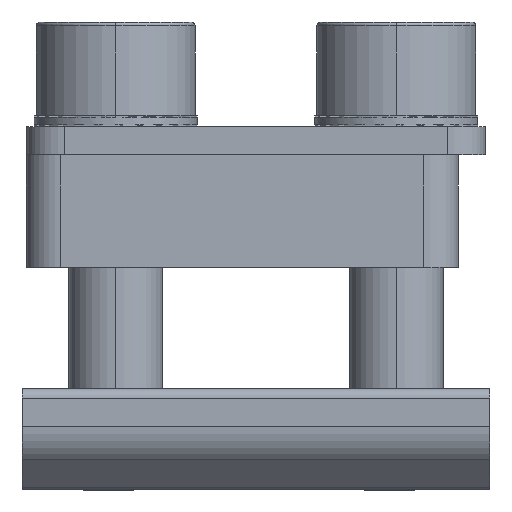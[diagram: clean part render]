
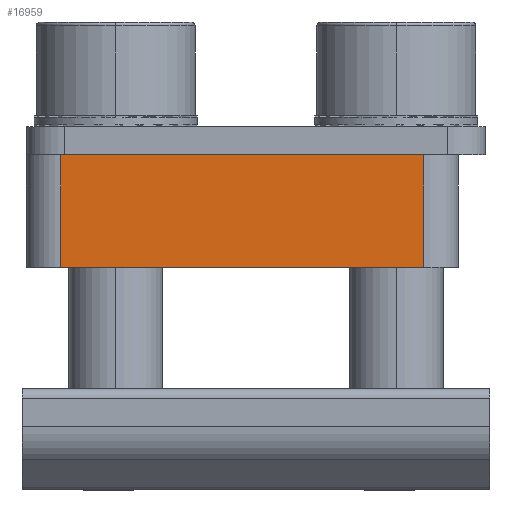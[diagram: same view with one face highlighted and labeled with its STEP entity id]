
A CAD part, front view. The second image highlights one B-rep face of the part: STEP entity #16959.
In plain terms, the highlighted planar face has unit normal (0, -1, 0).
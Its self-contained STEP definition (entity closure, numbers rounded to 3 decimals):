
#235 = ORIENTED_EDGE ( 'NONE', *, *, #23915, .F. ) ;
#1147 = DIRECTION ( 'NONE',  ( 0., 0., -1. ) ) ;
#1289 = ORIENTED_EDGE ( 'NONE', *, *, #2101, .T. ) ;
#1301 = ORIENTED_EDGE ( 'NONE', *, *, #20735, .T. ) ;
#1592 = VECTOR ( 'NONE', #4274, 1000. ) ;
#1802 = CARTESIAN_POINT ( 'NONE',  ( -94.16, -17.833, 26.764 ) ) ;
#2101 = EDGE_CURVE ( 'NONE', #5682, #9340, #10951, .T. ) ;
#3759 = FACE_OUTER_BOUND ( 'NONE', #22579, .T. ) ;
#4274 = DIRECTION ( 'NONE',  ( 0., 0., -1. ) ) ;
#5682 = VERTEX_POINT ( 'NONE', #7006 ) ;
#7006 = CARTESIAN_POINT ( 'NONE',  ( -74.776, -17.833, 26.764 ) ) ;
#7216 = DIRECTION ( 'NONE',  ( 0., 0., 1. ) ) ;
#7674 = EDGE_CURVE ( 'NONE', #9340, #21674, #16459, .T. ) ;
#8315 = AXIS2_PLACEMENT_3D ( 'NONE', #24287, #12755, #1147 ) ;
#8925 = CARTESIAN_POINT ( 'NONE',  ( -74.776, -17.833, 20.764 ) ) ;
#9062 = VECTOR ( 'NONE', #7216, 1000. ) ;
#9293 = CARTESIAN_POINT ( 'NONE',  ( -94.16, -17.833, 20.764 ) ) ;
#9340 = VERTEX_POINT ( 'NONE', #1802 ) ;
#9626 = LINE ( 'NONE', #20691, #9062 ) ;
#9640 = CARTESIAN_POINT ( 'NONE',  ( -84.468, -17.833, 26.764 ) ) ;
#10468 = VERTEX_POINT ( 'NONE', #8925 ) ;
#10951 = LINE ( 'NONE', #9640, #23918 ) ;
#11370 = ORIENTED_EDGE ( 'NONE', *, *, #7674, .T. ) ;
#12744 = DIRECTION ( 'NONE',  ( -1., 0., 0. ) ) ;
#12755 = DIRECTION ( 'NONE',  ( 0., -1., 0. ) ) ;
#14095 = CARTESIAN_POINT ( 'NONE',  ( -94.16, -17.833, 23.764 ) ) ;
#14865 = LINE ( 'NONE', #17263, #19420 ) ;
#16459 = LINE ( 'NONE', #14095, #1592 ) ;
#16959 = ADVANCED_FACE ( 'NONE', ( #3759 ), #20380, .T. ) ;
#17263 = CARTESIAN_POINT ( 'NONE',  ( -84.468, -17.833, 20.764 ) ) ;
#19420 = VECTOR ( 'NONE', #20991, 1000. ) ;
#20380 = PLANE ( 'NONE',  #8315 ) ;
#20691 = CARTESIAN_POINT ( 'NONE',  ( -74.776, -17.833, 23.764 ) ) ;
#20735 = EDGE_CURVE ( 'NONE', #10468, #5682, #9626, .T. ) ;
#20991 = DIRECTION ( 'NONE',  ( -1., 0., 0. ) ) ;
#21674 = VERTEX_POINT ( 'NONE', #9293 ) ;
#22579 = EDGE_LOOP ( 'NONE', ( #1289, #11370, #235, #1301 ) ) ;
#23915 = EDGE_CURVE ( 'NONE', #10468, #21674, #14865, .T. ) ;
#23918 = VECTOR ( 'NONE', #12744, 1000. ) ;
#24287 = CARTESIAN_POINT ( 'NONE',  ( -94.16, -17.833, 26.764 ) ) ;
